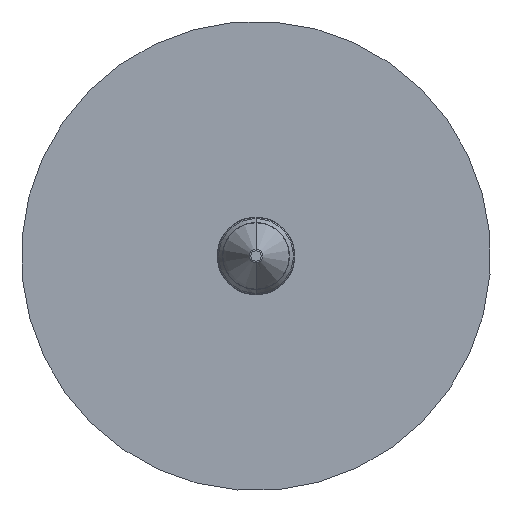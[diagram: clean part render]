
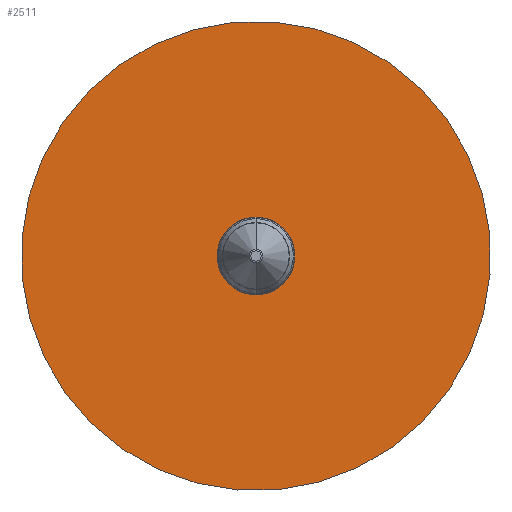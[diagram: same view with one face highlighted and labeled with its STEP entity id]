
A CAD part, front view. The second image highlights one B-rep face of the part: STEP entity #2511.
In plain terms, the highlighted planar face has unit normal (0, -1, 0).
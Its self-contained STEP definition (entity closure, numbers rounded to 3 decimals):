
#137 = ORIENTED_EDGE ( 'NONE', *, *, #299, .T. ) ;
#164 = CARTESIAN_POINT ( 'NONE',  ( -164.532, -55.769, 1460. ) ) ;
#210 = CARTESIAN_POINT ( 'NONE',  ( -164.532, -55.769, 1460. ) ) ;
#226 = PLANE ( 'NONE',  #1788 ) ;
#273 = CARTESIAN_POINT ( 'NONE',  ( -84.578, -55.769, 1170.851 ) ) ;
#299 = EDGE_CURVE ( 'NONE', #1393, #2656, #2091, .T. ) ;
#417 = AXIS2_PLACEMENT_3D ( 'NONE', #1867, #3528, #2387 ) ;
#430 = EDGE_CURVE ( 'NONE', #2656, #1393, #1612, .T. ) ;
#447 = DIRECTION ( 'NONE',  ( 0., 1., 0. ) ) ;
#611 = VERTEX_POINT ( 'NONE', #816 ) ;
#763 = CIRCLE ( 'NONE', #2343, 300. ) ;
#816 = CARTESIAN_POINT ( 'NONE',  ( -244.486, -55.769, 1749.149 ) ) ;
#904 = CARTESIAN_POINT ( 'NONE',  ( -163.2, -55.769, 1455.181 ) ) ;
#992 = DIRECTION ( 'NONE',  ( 0., 1., 0. ) ) ;
#1043 = FACE_OUTER_BOUND ( 'NONE', #1079, .T. ) ;
#1079 = EDGE_LOOP ( 'NONE', ( #3594, #2397 ) ) ;
#1082 = DIRECTION ( 'NONE',  ( -0.267, 0., 0.964 ) ) ;
#1204 = AXIS2_PLACEMENT_3D ( 'NONE', #3452, #1243, #1494 ) ;
#1243 = DIRECTION ( 'NONE',  ( 0., 1., 0. ) ) ;
#1255 = VERTEX_POINT ( 'NONE', #273 ) ;
#1269 = DIRECTION ( 'NONE',  ( -0.267, 0., 0.964 ) ) ;
#1393 = VERTEX_POINT ( 'NONE', #904 ) ;
#1494 = DIRECTION ( 'NONE',  ( -0.267, 0., 0.964 ) ) ;
#1612 = CIRCLE ( 'NONE', #1204, 5. ) ;
#1634 = CARTESIAN_POINT ( 'NONE',  ( -164.532, -55.769, 1460. ) ) ;
#1788 = AXIS2_PLACEMENT_3D ( 'NONE', #1634, #2471, #1082 ) ;
#1867 = CARTESIAN_POINT ( 'NONE',  ( -164.532, -55.769, 1460. ) ) ;
#2091 = CIRCLE ( 'NONE', #417, 5. ) ;
#2092 = AXIS2_PLACEMENT_3D ( 'NONE', #164, #447, #3212 ) ;
#2233 = EDGE_LOOP ( 'NONE', ( #137, #2646 ) ) ;
#2321 = CIRCLE ( 'NONE', #2092, 300. ) ;
#2343 = AXIS2_PLACEMENT_3D ( 'NONE', #210, #992, #1269 ) ;
#2387 = DIRECTION ( 'NONE',  ( -0.267, 0., 0.964 ) ) ;
#2397 = ORIENTED_EDGE ( 'NONE', *, *, #3568, .F. ) ;
#2471 = DIRECTION ( 'NONE',  ( 0., 1., 0. ) ) ;
#2511 = ADVANCED_FACE ( 'NONE', ( #1043, #2817 ), #226, .F. ) ;
#2522 = CARTESIAN_POINT ( 'NONE',  ( -165.865, -55.769, 1464.819 ) ) ;
#2646 = ORIENTED_EDGE ( 'NONE', *, *, #430, .T. ) ;
#2656 = VERTEX_POINT ( 'NONE', #2522 ) ;
#2817 = FACE_BOUND ( 'NONE', #2233, .T. ) ;
#3212 = DIRECTION ( 'NONE',  ( -0.267, 0., 0.964 ) ) ;
#3452 = CARTESIAN_POINT ( 'NONE',  ( -164.532, -55.769, 1460. ) ) ;
#3503 = EDGE_CURVE ( 'NONE', #1255, #611, #2321, .T. ) ;
#3528 = DIRECTION ( 'NONE',  ( 0., 1., 0. ) ) ;
#3568 = EDGE_CURVE ( 'NONE', #611, #1255, #763, .T. ) ;
#3594 = ORIENTED_EDGE ( 'NONE', *, *, #3503, .F. ) ;
